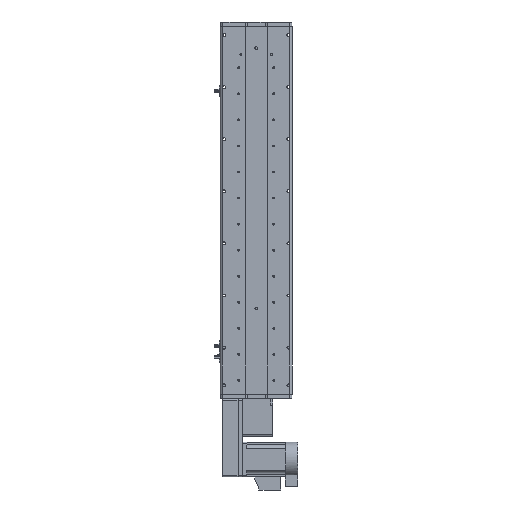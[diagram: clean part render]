
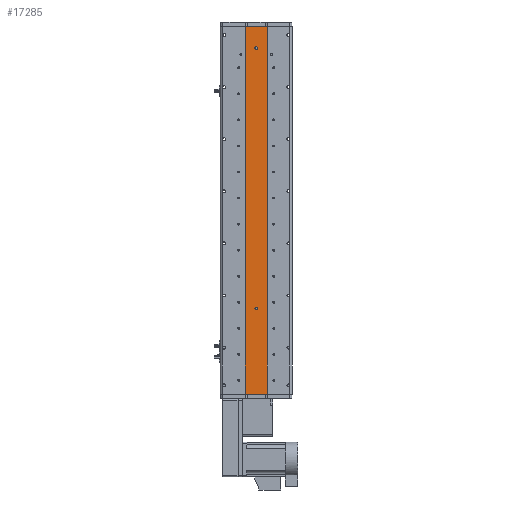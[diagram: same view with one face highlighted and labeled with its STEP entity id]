
A CAD part, front view. The second image highlights one B-rep face of the part: STEP entity #17285.
In plain terms, the highlighted planar face has unit normal (0, -1, 0).
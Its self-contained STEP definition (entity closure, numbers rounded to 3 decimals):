
#2799 = VERTEX_POINT ( 'NONE', #47762 ) ;
#3364 = FACE_BOUND ( 'NONE', #58114, .T. ) ;
#3720 = VERTEX_POINT ( 'NONE', #41689 ) ;
#4251 = CARTESIAN_POINT ( 'NONE',  ( 25., 1., 423.5 ) ) ;
#4556 = ORIENTED_EDGE ( 'NONE', *, *, #54819, .F. ) ;
#4624 = ORIENTED_EDGE ( 'NONE', *, *, #56555, .T. ) ;
#4636 = LINE ( 'NONE', #52115, #43316 ) ;
#5891 = EDGE_CURVE ( 'NONE', #18304, #29223, #49462, .T. ) ;
#6156 = EDGE_CURVE ( 'NONE', #36489, #6554, #45564, .T. ) ;
#6554 = VERTEX_POINT ( 'NONE', #12045 ) ;
#10735 = ORIENTED_EDGE ( 'NONE', *, *, #28451, .F. ) ;
#10870 = DIRECTION ( 'NONE',  ( 1., 0., 0. ) ) ;
#11617 = DIRECTION ( 'NONE',  ( 0., 0., 1. ) ) ;
#12045 = CARTESIAN_POINT ( 'NONE',  ( 25., 1., 423.5 ) ) ;
#12190 = CARTESIAN_POINT ( 'NONE',  ( 0., 1., 373.5 ) ) ;
#13413 = EDGE_LOOP ( 'NONE', ( #4624, #10735, #22307, #29544 ) ) ;
#13647 = VERTEX_POINT ( 'NONE', #56216 ) ;
#17075 = DIRECTION ( 'NONE',  ( 0., 0., -1. ) ) ;
#17285 = ADVANCED_FACE ( 'NONE', ( #29294, #3364, #53549 ), #59981, .F. ) ;
#18151 = DIRECTION ( 'NONE',  ( 0., 0., -1. ) ) ;
#18160 = LINE ( 'NONE', #40300, #42388 ) ;
#18246 = VECTOR ( 'NONE', #43053, 1000. ) ;
#18304 = VERTEX_POINT ( 'NONE', #54223 ) ;
#19355 = DIRECTION ( 'NONE',  ( 0., -1., 0. ) ) ;
#20076 = ORIENTED_EDGE ( 'NONE', *, *, #36636, .F. ) ;
#21182 = DIRECTION ( 'NONE',  ( 0., -1., 0. ) ) ;
#22307 = ORIENTED_EDGE ( 'NONE', *, *, #6156, .F. ) ;
#22877 = CARTESIAN_POINT ( 'NONE',  ( 0., 1., 370.5 ) ) ;
#24337 = CARTESIAN_POINT ( 'NONE',  ( 0., 1., -226.5 ) ) ;
#25062 = CIRCLE ( 'NONE', #59246, 3. ) ;
#27415 = EDGE_CURVE ( 'NONE', #36489, #3720, #4636, .T. ) ;
#27987 = VECTOR ( 'NONE', #10870, 1000. ) ;
#28451 = EDGE_CURVE ( 'NONE', #6554, #41401, #18160, .T. ) ;
#29223 = VERTEX_POINT ( 'NONE', #22877 ) ;
#29236 = DIRECTION ( 'NONE',  ( 0., 0., -1. ) ) ;
#29286 = CARTESIAN_POINT ( 'NONE',  ( -25., 1., 423.5 ) ) ;
#29294 = FACE_BOUND ( 'NONE', #43328, .T. ) ;
#29544 = ORIENTED_EDGE ( 'NONE', *, *, #27415, .T. ) ;
#30923 = CARTESIAN_POINT ( 'NONE',  ( 25., 1., 423.5 ) ) ;
#31514 = CARTESIAN_POINT ( 'NONE',  ( 25., 1., -423.5 ) ) ;
#33722 = AXIS2_PLACEMENT_3D ( 'NONE', #12190, #46080, #17075 ) ;
#34164 = CIRCLE ( 'NONE', #56441, 3. ) ;
#35436 = DIRECTION ( 'NONE',  ( 0., 0., -1. ) ) ;
#36489 = VERTEX_POINT ( 'NONE', #29286 ) ;
#36636 = EDGE_CURVE ( 'NONE', #13647, #2799, #34164, .T. ) ;
#39895 = CARTESIAN_POINT ( 'NONE',  ( 25., 1., -423.5 ) ) ;
#40300 = CARTESIAN_POINT ( 'NONE',  ( 25., 1., 423.5 ) ) ;
#40605 = DIRECTION ( 'NONE',  ( 0., 1., 0. ) ) ;
#40800 = LINE ( 'NONE', #39895, #27987 ) ;
#41401 = VERTEX_POINT ( 'NONE', #31514 ) ;
#41689 = CARTESIAN_POINT ( 'NONE',  ( -25., 1., -423.5 ) ) ;
#42388 = VECTOR ( 'NONE', #35436, 1000. ) ;
#43053 = DIRECTION ( 'NONE',  ( 1., 0., 0. ) ) ;
#43316 = VECTOR ( 'NONE', #18151, 1000. ) ;
#43328 = EDGE_LOOP ( 'NONE', ( #4556, #61140 ) ) ;
#45564 = LINE ( 'NONE', #4251, #18246 ) ;
#45658 = AXIS2_PLACEMENT_3D ( 'NONE', #48394, #19355, #53301 ) ;
#46080 = DIRECTION ( 'NONE',  ( 0., -1., 0. ) ) ;
#47762 = CARTESIAN_POINT ( 'NONE',  ( 0., 1., -229.5 ) ) ;
#48394 = CARTESIAN_POINT ( 'NONE',  ( 0., 1., 373.5 ) ) ;
#49462 = CIRCLE ( 'NONE', #33722, 3. ) ;
#50248 = CARTESIAN_POINT ( 'NONE',  ( 0., 1., -226.5 ) ) ;
#50647 = EDGE_CURVE ( 'NONE', #2799, #13647, #25062, .T. ) ;
#52115 = CARTESIAN_POINT ( 'NONE',  ( -25., 1., 423.5 ) ) ;
#53301 = DIRECTION ( 'NONE',  ( 0., 0., -1. ) ) ;
#53549 = FACE_OUTER_BOUND ( 'NONE', #13413, .T. ) ;
#54223 = CARTESIAN_POINT ( 'NONE',  ( 0., 1., 376.5 ) ) ;
#54819 = EDGE_CURVE ( 'NONE', #29223, #18304, #57040, .T. ) ;
#55120 = DIRECTION ( 'NONE',  ( 0., 0., -1. ) ) ;
#56216 = CARTESIAN_POINT ( 'NONE',  ( 0., 1., -223.5 ) ) ;
#56441 = AXIS2_PLACEMENT_3D ( 'NONE', #50248, #21182, #55120 ) ;
#56555 = EDGE_CURVE ( 'NONE', #3720, #41401, #40800, .T. ) ;
#57040 = CIRCLE ( 'NONE', #45658, 3. ) ;
#58114 = EDGE_LOOP ( 'NONE', ( #59273, #20076 ) ) ;
#58247 = DIRECTION ( 'NONE',  ( 0., -1., 0. ) ) ;
#59246 = AXIS2_PLACEMENT_3D ( 'NONE', #24337, #58247, #29236 ) ;
#59273 = ORIENTED_EDGE ( 'NONE', *, *, #50647, .F. ) ;
#59981 = PLANE ( 'NONE',  #61275 ) ;
#61140 = ORIENTED_EDGE ( 'NONE', *, *, #5891, .F. ) ;
#61275 = AXIS2_PLACEMENT_3D ( 'NONE', #30923, #40605, #11617 ) ;
